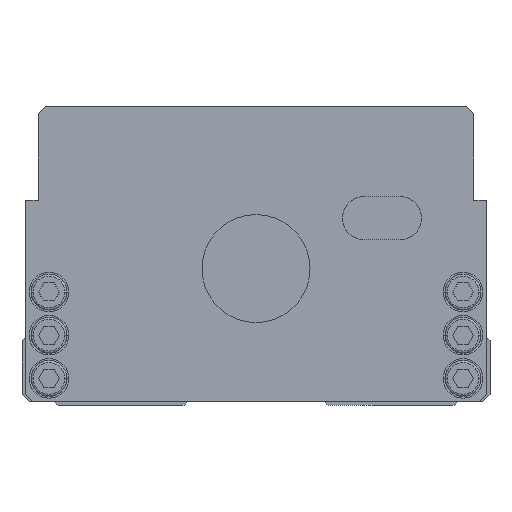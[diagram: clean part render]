
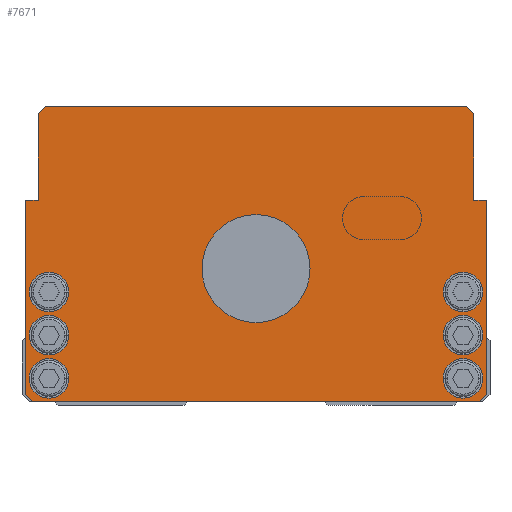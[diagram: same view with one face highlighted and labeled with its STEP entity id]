
A CAD part, front view. The second image highlights one B-rep face of the part: STEP entity #7671.
In plain terms, the highlighted planar face has unit normal (0, -1, 0).
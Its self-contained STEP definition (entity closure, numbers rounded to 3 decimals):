
#6089=VERTEX_POINT('',#17501);
#6461=EDGE_CURVE('',#7951,#15469,#17909,.T.);
#7051=EDGE_CURVE('',#16277,#10201,#18565,.T.);
#7619=VERTEX_POINT('',#19193);
#7671=ADVANCED_FACE('',(#19252,#19253,#19254,#19255,#19256,#19257,#19258,#19259),#19260,.T.);
#7843=VERTEX_POINT('',#19459);
#7951=VERTEX_POINT('',#19586);
#8139=VERTEX_POINT('',#19801);
#8527=VERTEX_POINT('',#20225);
#8749=VERTEX_POINT('',#20483);
#8757=VERTEX_POINT('',#20493);
#8983=VERTEX_POINT('',#20736);
#9285=EDGE_CURVE('',#7843,#13409,#21087,.T.);
#9315=VERTEX_POINT('',#21118);
#9317=VERTEX_POINT('',#21120);
#9449=VERTEX_POINT('',#21266);
#9627=EDGE_CURVE('',#8527,#11965,#21482,.T.);
#9855=EDGE_CURVE('',#11785,#8983,#21740,.T.);
#9939=VERTEX_POINT('',#21832);
#9965=EDGE_CURVE('',#16401,#11875,#21864,.T.);
#10201=VERTEX_POINT('',#22131);
#10625=VERTEX_POINT('',#22592);
#10657=EDGE_CURVE('',#15469,#14159,#22629,.T.);
#11269=EDGE_CURVE('',#11965,#16277,#23315,.T.);
#11495=EDGE_CURVE('',#8983,#11785,#23563,.T.);
#11643=EDGE_CURVE('',#6089,#9317,#23722,.T.);
#11767=EDGE_CURVE('',#8757,#14511,#23859,.T.);
#11785=VERTEX_POINT('',#23877);
#11875=VERTEX_POINT('',#23976);
#11965=VERTEX_POINT('',#24071);
#11991=VERTEX_POINT('',#24100);
#12303=EDGE_CURVE('',#11875,#16401,#24445,.T.);
#12525=EDGE_CURVE('',#9317,#7619,#24702,.T.);
#12619=EDGE_CURVE('',#8749,#10625,#24808,.T.);
#12811=EDGE_CURVE('',#14511,#8757,#25022,.T.);
#13069=EDGE_CURVE('',#9315,#6089,#25311,.T.);
#13401=EDGE_CURVE('',#16229,#8139,#25678,.T.);
#13409=VERTEX_POINT('',#25687);
#14039=EDGE_CURVE('',#11991,#9939,#26383,.T.);
#14159=VERTEX_POINT('',#26514);
#14511=VERTEX_POINT('',#26908);
#14659=EDGE_CURVE('',#10625,#8749,#27066,.T.);
#15043=EDGE_CURVE('',#8139,#16229,#27515,.T.);
#15315=EDGE_CURVE('',#13409,#7843,#27815,.T.);
#15469=VERTEX_POINT('',#27990);
#15795=EDGE_CURVE('',#10201,#9449,#28346,.T.);
#15989=EDGE_CURVE('',#14159,#8527,#28556,.T.);
#16229=VERTEX_POINT('',#28826);
#16277=VERTEX_POINT('',#28882);
#16401=VERTEX_POINT('',#29018);
#16701=EDGE_CURVE('',#9939,#11991,#29354,.T.);
#16879=EDGE_CURVE('',#9449,#9315,#29545,.T.);
#16987=EDGE_CURVE('',#7619,#7951,#29659,.T.);
#17501=CARTESIAN_POINT('',(-64.0,0.0,3.0));
#17909=LINE('',#30908,#30909);
#18565=LINE('',#31826,#31827);
#19193=CARTESIAN_POINT('',(-60.5,0.0,57.0));
#19252=FACE_BOUND('',#32776,.T.);
#19253=FACE_BOUND('',#32777,.T.);
#19254=FACE_BOUND('',#32778,.T.);
#19255=FACE_BOUND('',#32779,.T.);
#19256=FACE_BOUND('',#32780,.T.);
#19257=FACE_BOUND('',#32781,.T.);
#19258=FACE_BOUND('',#32782,.T.);
#19259=FACE_OUTER_BOUND('',#32783,.T.);
#19260=PLANE('',#32784);
#19459=CARTESIAN_POINT('',(-63.0,0.0,31.5));
#19586=CARTESIAN_POINT('',(-60.5,0.0,81.0));
#19801=CARTESIAN_POINT('',(15.0,0.0,38.0));
#20225=CARTESIAN_POINT('',(60.5,0.0,81.0));
#20483=CARTESIAN_POINT('',(-63.0,0.0,19.5));
#20493=CARTESIAN_POINT('',(-63.0,0.0,7.5));
#20736=CARTESIAN_POINT('',(63.0,0.0,7.5));
#21087=CIRCLE('',#35321,5.5);
#21118=CARTESIAN_POINT('',(-62.0,0.0,1.0));
#21120=CARTESIAN_POINT('',(-64.0,0.0,57.0));
#21266=CARTESIAN_POINT('',(62.0,0.0,1.0));
#21482=LINE('',#35846,#35847);
#21740=CIRCLE('',#36175,5.5);
#21832=CARTESIAN_POINT('',(63.0,0.0,31.5));
#21864=CIRCLE('',#36340,5.5);
#22131=CARTESIAN_POINT('',(64.0,0.0,3.0));
#22592=CARTESIAN_POINT('',(-52.0,0.0,19.5));
#22629=LINE('',#37404,#37405);
#23315=LINE('',#38322,#38323);
#23563=CIRCLE('',#38660,5.5);
#23722=LINE('',#38901,#38902);
#23859=CIRCLE('',#39100,5.5);
#23877=CARTESIAN_POINT('',(52.0,0.0,7.5));
#23976=CARTESIAN_POINT('',(63.0,0.0,19.5));
#24071=CARTESIAN_POINT('',(60.5,0.0,57.0));
#24100=CARTESIAN_POINT('',(52.0,0.0,31.5));
#24445=CIRCLE('',#39895,5.5);
#24702=LINE('',#40253,#40254);
#24808=CIRCLE('',#40407,5.5);
#25022=CIRCLE('',#40700,5.5);
#25311=LINE('',#41085,#41086);
#25678=CIRCLE('',#41594,15.0);
#25687=CARTESIAN_POINT('',(-52.0,0.0,31.5));
#26383=CIRCLE('',#42575,5.5);
#26514=CARTESIAN_POINT('',(58.5,0.0,83.0));
#26908=CARTESIAN_POINT('',(-52.0,0.0,7.5));
#27066=CIRCLE('',#43518,5.5);
#27515=CIRCLE('',#44103,15.0);
#27815=CIRCLE('',#44516,5.5);
#27990=CARTESIAN_POINT('',(-58.5,0.0,83.0));
#28346=LINE('',#45239,#45240);
#28556=LINE('',#45532,#45533);
#28826=CARTESIAN_POINT('',(-15.0,0.0,38.0));
#28882=CARTESIAN_POINT('',(64.0,0.0,57.0));
#29018=CARTESIAN_POINT('',(52.0,0.0,19.5));
#29354=CIRCLE('',#46647,5.5);
#29545=LINE('',#46905,#46906);
#29659=LINE('',#47070,#47071);
#30908=CARTESIAN_POINT('',(-58.5,0.0,83.0));
#30909=VECTOR('',#48097,1.);
#31826=CARTESIAN_POINT('',(64.0,0.0,3.0));
#31827=VECTOR('',#48879,1.0);
#32776=EDGE_LOOP('',(#49616,#49617));
#32777=EDGE_LOOP('',(#49618,#49619));
#32778=EDGE_LOOP('',(#49620,#49621));
#32779=EDGE_LOOP('',(#49622,#49623));
#32780=EDGE_LOOP('',(#49624,#49625));
#32781=EDGE_LOOP('',(#49626,#49627));
#32782=EDGE_LOOP('',(#49628,#49629));
#32783=EDGE_LOOP('',(#49630,#49631,#49632,#49633,#49634,#49635,#49636,#49637,#49638,#49639,#49640,#49641));
#32784=AXIS2_PLACEMENT_3D('',#49642,#49643,#49644);
#35321=AXIS2_PLACEMENT_3D('',#51774,#51775,#51776);
#35846=CARTESIAN_POINT('',(60.5,0.0,57.0));
#35847=VECTOR('',#52301,1.0);
#36175=AXIS2_PLACEMENT_3D('',#52621,#52622,#52623);
#36340=AXIS2_PLACEMENT_3D('',#52794,#52795,#52796);
#37404=CARTESIAN_POINT('',(58.5,0.0,83.0));
#37405=VECTOR('',#53620,1.0);
#38322=CARTESIAN_POINT('',(64.0,0.0,57.0));
#38323=VECTOR('',#54487,1.0);
#38660=AXIS2_PLACEMENT_3D('',#54754,#54755,#54756);
#38901=CARTESIAN_POINT('',(-64.0,0.0,57.0));
#38902=VECTOR('',#54916,1.0);
#39100=AXIS2_PLACEMENT_3D('',#55077,#55078,#55079);
#39895=AXIS2_PLACEMENT_3D('',#55703,#55704,#55705);
#40253=CARTESIAN_POINT('',(-60.5,0.0,57.0));
#40254=VECTOR('',#56065,1.0);
#40407=AXIS2_PLACEMENT_3D('',#56187,#56188,#56189);
#40700=AXIS2_PLACEMENT_3D('',#56482,#56483,#56484);
#41085=CARTESIAN_POINT('',(-64.0,0.0,3.0));
#41086=VECTOR('',#56809,1.);
#41594=AXIS2_PLACEMENT_3D('',#57268,#57269,#57270);
#42575=AXIS2_PLACEMENT_3D('',#58036,#58037,#58038);
#43518=AXIS2_PLACEMENT_3D('',#58818,#58819,#58820);
#44103=AXIS2_PLACEMENT_3D('',#59436,#59437,#59438);
#44516=AXIS2_PLACEMENT_3D('',#59781,#59782,#59783);
#45239=CARTESIAN_POINT('',(62.0,0.0,1.0));
#45240=VECTOR('',#60356,1.);
#45532=CARTESIAN_POINT('',(60.5,0.0,81.0));
#45533=VECTOR('',#60552,1.);
#46647=AXIS2_PLACEMENT_3D('',#61526,#61527,#61528);
#46905=CARTESIAN_POINT('',(-62.0,0.0,1.0));
#46906=VECTOR('',#61707,1.0);
#47070=CARTESIAN_POINT('',(-60.5,0.0,81.0));
#47071=VECTOR('',#61804,1.0);
#48097=DIRECTION('',(0.707,0.0,0.707));
#48879=DIRECTION('',(-0.0,0.0,-1.0));
#49616=ORIENTED_EDGE('',*,*,#15043,.T.);
#49617=ORIENTED_EDGE('',*,*,#13401,.T.);
#49618=ORIENTED_EDGE('',*,*,#16701,.T.);
#49619=ORIENTED_EDGE('',*,*,#14039,.T.);
#49620=ORIENTED_EDGE('',*,*,#12303,.T.);
#49621=ORIENTED_EDGE('',*,*,#9965,.T.);
#49622=ORIENTED_EDGE('',*,*,#11495,.T.);
#49623=ORIENTED_EDGE('',*,*,#9855,.T.);
#49624=ORIENTED_EDGE('',*,*,#15315,.T.);
#49625=ORIENTED_EDGE('',*,*,#9285,.T.);
#49626=ORIENTED_EDGE('',*,*,#14659,.T.);
#49627=ORIENTED_EDGE('',*,*,#12619,.T.);
#49628=ORIENTED_EDGE('',*,*,#12811,.T.);
#49629=ORIENTED_EDGE('',*,*,#11767,.T.);
#49630=ORIENTED_EDGE('',*,*,#13069,.F.);
#49631=ORIENTED_EDGE('',*,*,#16879,.F.);
#49632=ORIENTED_EDGE('',*,*,#15795,.F.);
#49633=ORIENTED_EDGE('',*,*,#7051,.F.);
#49634=ORIENTED_EDGE('',*,*,#11269,.F.);
#49635=ORIENTED_EDGE('',*,*,#9627,.F.);
#49636=ORIENTED_EDGE('',*,*,#15989,.F.);
#49637=ORIENTED_EDGE('',*,*,#10657,.F.);
#49638=ORIENTED_EDGE('',*,*,#6461,.F.);
#49639=ORIENTED_EDGE('',*,*,#16987,.F.);
#49640=ORIENTED_EDGE('',*,*,#12525,.F.);
#49641=ORIENTED_EDGE('',*,*,#11643,.F.);
#49642=CARTESIAN_POINT('',(0.,0.0,41.562));
#49643=DIRECTION('',(0.0,-1.0,0.0));
#49644=DIRECTION('',(1.0,0.0,0.0));
#51774=CARTESIAN_POINT('',(-57.5,0.0,31.5));
#51775=DIRECTION('',(-0.0,1.0,0.0));
#51776=DIRECTION('',(1.0,0.0,0.0));
#52301=DIRECTION('',(-0.0,0.0,-1.0));
#52621=CARTESIAN_POINT('',(57.5,0.0,7.5));
#52622=DIRECTION('',(-0.0,1.0,0.0));
#52623=DIRECTION('',(1.0,0.0,0.0));
#52794=CARTESIAN_POINT('',(57.5,0.0,19.5));
#52795=DIRECTION('',(-0.0,1.0,0.0));
#52796=DIRECTION('',(1.0,0.0,0.0));
#53620=DIRECTION('',(1.0,0.0,0.0));
#54487=DIRECTION('',(1.0,0.0,0.0));
#54754=CARTESIAN_POINT('',(57.5,0.0,7.5));
#54755=DIRECTION('',(-0.0,1.0,0.0));
#54756=DIRECTION('',(1.0,0.0,0.0));
#54916=DIRECTION('',(0.0,0.0,1.0));
#55077=CARTESIAN_POINT('',(-57.5,0.0,7.5));
#55078=DIRECTION('',(-0.0,1.0,0.0));
#55079=DIRECTION('',(1.0,0.0,0.0));
#55703=CARTESIAN_POINT('',(57.5,0.0,19.5));
#55704=DIRECTION('',(-0.0,1.0,0.0));
#55705=DIRECTION('',(1.0,0.0,0.0));
#56065=DIRECTION('',(1.0,0.0,0.0));
#56187=CARTESIAN_POINT('',(-57.5,0.0,19.5));
#56188=DIRECTION('',(-0.0,1.0,0.0));
#56189=DIRECTION('',(1.0,0.0,0.0));
#56482=CARTESIAN_POINT('',(-57.5,0.0,7.5));
#56483=DIRECTION('',(-0.0,1.0,0.0));
#56484=DIRECTION('',(1.0,0.0,0.0));
#56809=DIRECTION('',(-0.707,0.0,0.707));
#57268=CARTESIAN_POINT('',(0.0,0.0,38.0));
#57269=DIRECTION('',(-0.0,1.0,0.0));
#57270=DIRECTION('',(1.0,0.0,0.0));
#58036=CARTESIAN_POINT('',(57.5,0.0,31.5));
#58037=DIRECTION('',(-0.0,1.0,0.0));
#58038=DIRECTION('',(1.0,0.0,0.0));
#58818=CARTESIAN_POINT('',(-57.5,0.0,19.5));
#58819=DIRECTION('',(-0.0,1.0,0.0));
#58820=DIRECTION('',(1.0,0.0,0.0));
#59436=CARTESIAN_POINT('',(0.0,0.0,38.0));
#59437=DIRECTION('',(-0.0,1.0,0.0));
#59438=DIRECTION('',(1.0,0.0,0.0));
#59781=CARTESIAN_POINT('',(-57.5,0.0,31.5));
#59782=DIRECTION('',(-0.0,1.0,0.0));
#59783=DIRECTION('',(1.0,0.0,0.0));
#60356=DIRECTION('',(-0.707,0.0,-0.707));
#60552=DIRECTION('',(0.707,0.0,-0.707));
#61526=CARTESIAN_POINT('',(57.5,0.0,31.5));
#61527=DIRECTION('',(-0.0,1.0,0.0));
#61528=DIRECTION('',(1.0,0.0,0.0));
#61707=DIRECTION('',(-1.0,0.0,-0.0));
#61804=DIRECTION('',(0.0,0.0,1.0));
